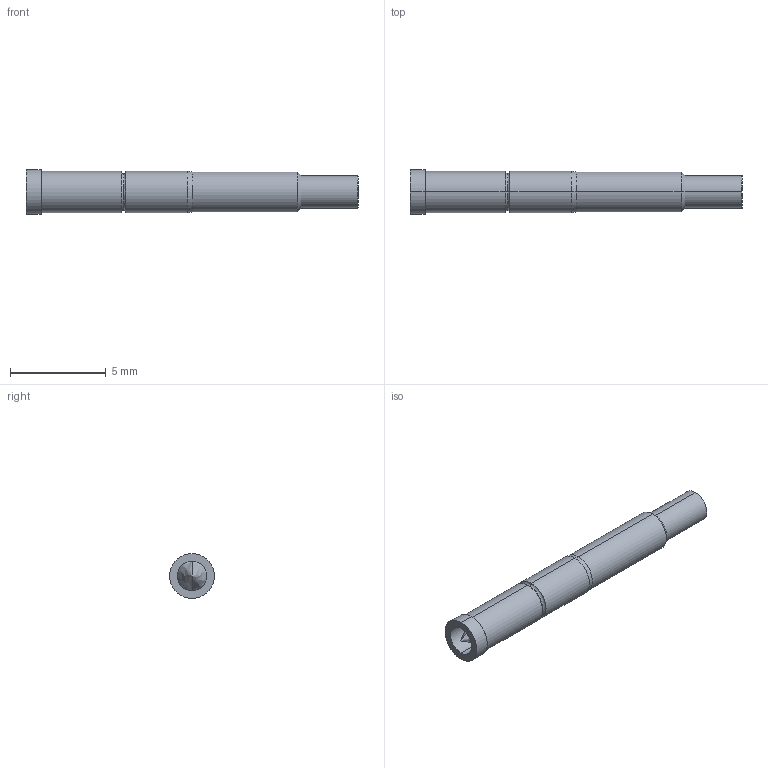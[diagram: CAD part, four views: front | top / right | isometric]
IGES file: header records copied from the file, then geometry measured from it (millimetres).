
Start section: SolidWorks IGES file using analytic representation for surfaces
Global section: file name: O:\PYLON\IGES FILES\F-S\F-S-C FULL.IGS; native system: SolidWorks 2015; preprocessor: SolidWorks 2015; author: kgolden; date: 171024.100418; units: inch
Bounding box: 17.3 x 2.34 x 2.34 mm (x, y, z)
Surface area: 141.3 mm2 (no closed solid volume)
Topology: 0 solids, 0 shells, 28 faces, 256 edges, 254 vertices
Faces by surface type: revolution 20, bspline 8
